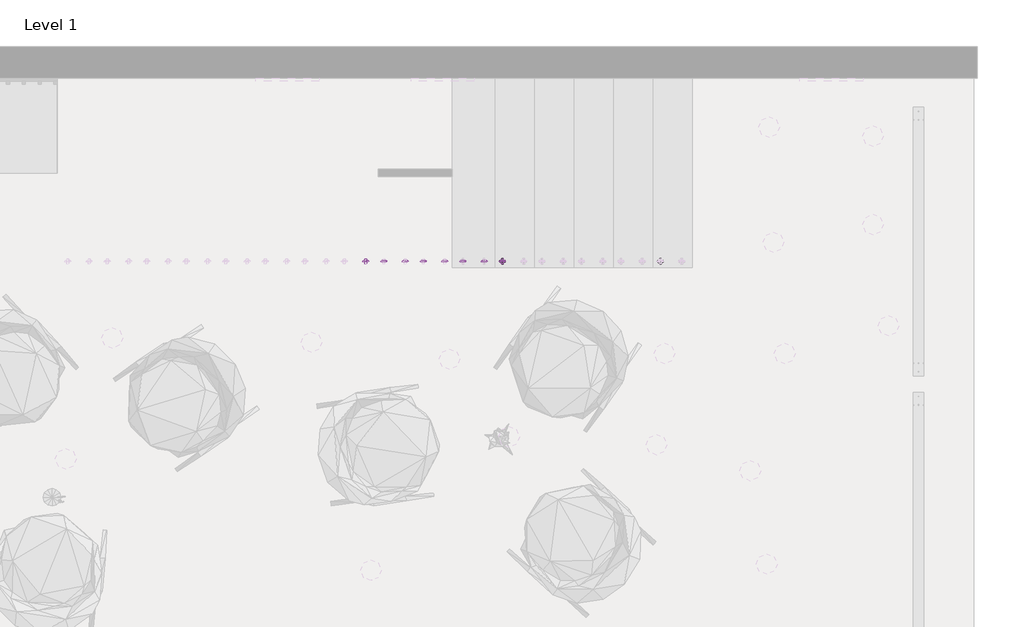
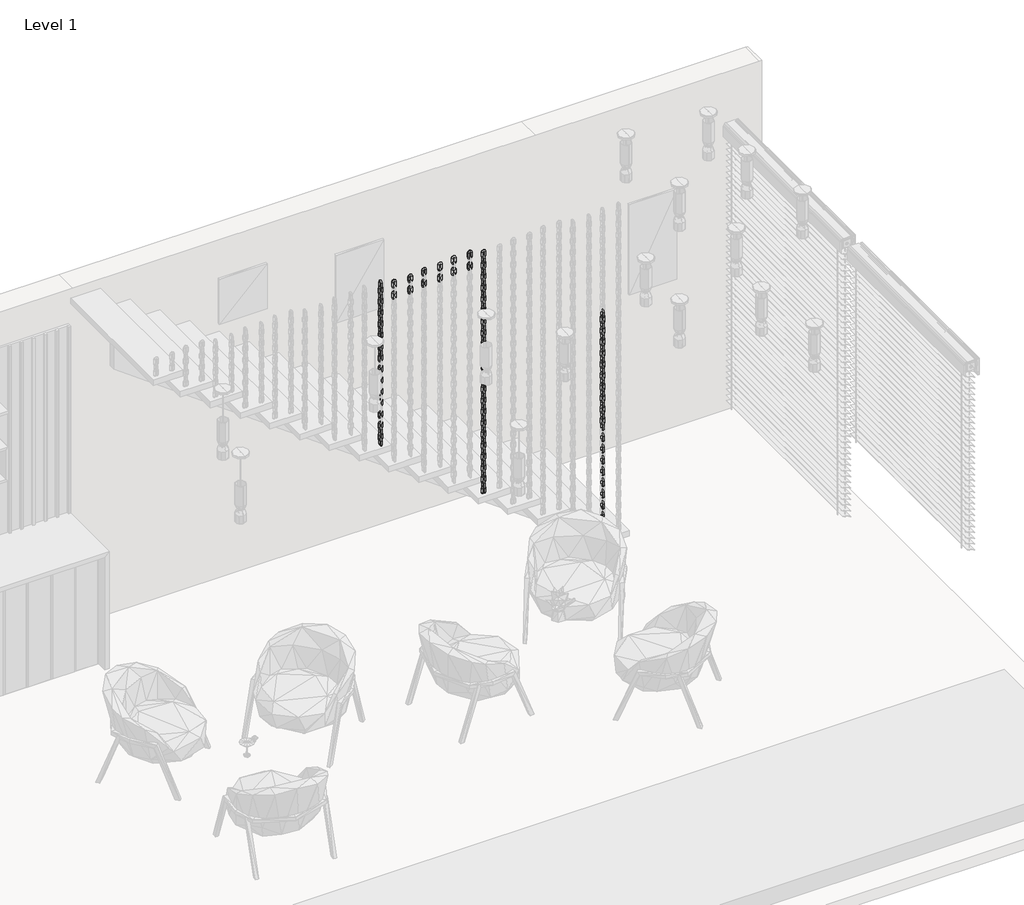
# One storey, part 8 of 12: 108 proxies.
"""IFC4 building model written with IfcOpenShell, lengths in millimetres."""

from ifc_helpers import new_model, si_unit, origin, place, context, project, spatial, transform, mapped, element, save
from components import family1_family1_50133a43, family1_family1_d3af85bb

model = new_model("IFC4")

# Units and contexts
model_context = context("Model", 3, world=origin())
ifc_project = project(units=[si_unit("LENGTHUNIT", "METRE", prefix="MILLI")], contexts=[model_context])

# Site, building, storey
site = spatial("IfcSite", under=ifc_project)
building = spatial("IfcBuilding", under=site)
storey = spatial("IfcBuildingStorey", under=building, Name="Level 1", Elevation=0.0)

# Proxies
placement = place(None, origin())
family1_family1_shape = family1_family1_50133a43(model_context)
element("IfcBuildingElementProxy", 1, Name="Family1 : Family1", ObjectType="Family1 : Family1", at=placement, inside=storey, context=model_context, shape_type="MappedRepresentation", body=[
    mapped(family1_family1_shape, transform((14865.1232124, 1139.760891, -134.8140205), x_axis=(-0.03315618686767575, 0.0, 0.9994501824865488), y_axis=(-0.9994501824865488, 0.0, -0.03315618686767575), z_axis=(0.0, -1.0, 0.0))),
])
element("IfcBuildingElementProxy", 2, Name="Family1 : Family1", ObjectType="Family1 : Family1", at=placement, inside=storey, context=model_context, shape_type="MappedRepresentation", body=[
    mapped(family1_family1_shape, transform((14865.1232124, 1139.760891, -34.8140205), x_axis=(-0.03315618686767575, 0.0, 0.9994501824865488), y_axis=(-0.9994501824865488, 0.0, -0.03315618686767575), z_axis=(0.0, -1.0, 0.0))),
])
element("IfcBuildingElementProxy", 3, Name="Family1 : Family1", ObjectType="Family1 : Family1", at=placement, inside=storey, context=model_context, shape_type="MappedRepresentation", body=[
    mapped(family1_family1_shape, transform((14865.1232124, 1139.760891, 65.1859795), x_axis=(-0.03315618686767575, 0.0, 0.9994501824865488), y_axis=(-0.9994501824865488, 0.0, -0.03315618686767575), z_axis=(0.0, -1.0, 0.0))),
])
element("IfcBuildingElementProxy", 4, Name="Family1 : Family1", ObjectType="Family1 : Family1", at=placement, inside=storey, context=model_context, shape_type="MappedRepresentation", body=[
    mapped(family1_family1_shape, transform((14865.1232124, 1139.760891, 165.1859795), x_axis=(-0.03315618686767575, 0.0, 0.9994501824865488), y_axis=(-0.9994501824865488, 0.0, -0.03315618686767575), z_axis=(0.0, -1.0, 0.0))),
])
element("IfcBuildingElementProxy", 5, Name="Family1 : Family1", ObjectType="Family1 : Family1", at=placement, inside=storey, context=model_context, shape_type="MappedRepresentation", body=[
    mapped(family1_family1_shape, transform((14865.1232124, 1139.760891, 265.1859795), x_axis=(-0.03315618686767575, 0.0, 0.9994501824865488), y_axis=(-0.9994501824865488, 0.0, -0.03315618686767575), z_axis=(0.0, -1.0, 0.0))),
])
element("IfcBuildingElementProxy", 6, Name="Family1 : Family1", ObjectType="Family1 : Family1", at=placement, inside=storey, context=model_context, shape_type="MappedRepresentation", body=[
    mapped(family1_family1_shape, transform((14865.1232124, 1139.760891, 365.1859795), x_axis=(-0.03315618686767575, 0.0, 0.9994501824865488), y_axis=(-0.9994501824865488, 0.0, -0.03315618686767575), z_axis=(0.0, -1.0, 0.0))),
])
element("IfcBuildingElementProxy", 7, Name="Family1 : Family1", ObjectType="Family1 : Family1", at=placement, inside=storey, context=model_context, shape_type="MappedRepresentation", body=[
    mapped(family1_family1_shape, transform((14865.1232124, 1139.760891, 465.1859795), x_axis=(-0.03315618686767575, 0.0, 0.9994501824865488), y_axis=(-0.9994501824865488, 0.0, -0.03315618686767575), z_axis=(0.0, -1.0, 0.0))),
])
element("IfcBuildingElementProxy", 8, Name="Family1 : Family1", ObjectType="Family1 : Family1", at=placement, inside=storey, context=model_context, shape_type="MappedRepresentation", body=[
    mapped(family1_family1_shape, transform((14865.1232124, 1139.760891, 565.1859795), x_axis=(-0.03315618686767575, 0.0, 0.9994501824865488), y_axis=(-0.9994501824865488, 0.0, -0.03315618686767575), z_axis=(0.0, -1.0, 0.0))),
])
element("IfcBuildingElementProxy", 9, Name="Family1 : Family1", ObjectType="Family1 : Family1", at=placement, inside=storey, context=model_context, shape_type="MappedRepresentation", body=[
    mapped(family1_family1_shape, transform((14865.1232124, 1139.760891, 665.1859795), x_axis=(-0.03315618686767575, 0.0, 0.9994501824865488), y_axis=(-0.9994501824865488, 0.0, -0.03315618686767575), z_axis=(0.0, -1.0, 0.0))),
])
element("IfcBuildingElementProxy", 10, Name="Family1 : Family1", ObjectType="Family1 : Family1", at=placement, inside=storey, context=model_context, shape_type="MappedRepresentation", body=[
    mapped(family1_family1_shape, transform((14865.1232124, 1139.760891, 765.1859795), x_axis=(-0.03315618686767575, 0.0, 0.9994501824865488), y_axis=(-0.9994501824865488, 0.0, -0.03315618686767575), z_axis=(0.0, -1.0, 0.0))),
])
element("IfcBuildingElementProxy", 11, Name="Family1 : Family1", ObjectType="Family1 : Family1", at=placement, inside=storey, context=model_context, shape_type="MappedRepresentation", body=[
    mapped(family1_family1_shape, transform((14865.1232124, 1139.760891, -234.8140205), x_axis=(-0.03315618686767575, 0.0, 0.9994501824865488), y_axis=(-0.9994501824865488, 0.0, -0.03315618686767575), z_axis=(0.0, -1.0, 0.0))),
])
element("IfcBuildingElementProxy", 12, Name="Family1 : Family1", ObjectType="Family1 : Family1", at=placement, inside=storey, context=model_context, shape_type="MappedRepresentation", body=[
    mapped(family1_family1_shape, transform((14865.1232124, 1139.760891, -334.8140205), x_axis=(-0.03315618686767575, 0.0, 0.9994501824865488), y_axis=(-0.9994501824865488, 0.0, -0.03315618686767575), z_axis=(0.0, -1.0, 0.0))),
])
element("IfcBuildingElementProxy", 13, Name="Family1 : Family1", ObjectType="Family1 : Family1", at=placement, inside=storey, context=model_context, shape_type="MappedRepresentation", body=[
    mapped(family1_family1_shape, transform((14865.1232124, 1139.760891, -434.8140205), x_axis=(-0.03315618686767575, 0.0, 0.9994501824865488), y_axis=(-0.9994501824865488, 0.0, -0.03315618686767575), z_axis=(0.0, -1.0, 0.0))),
])
element("IfcBuildingElementProxy", 14, Name="Family1 : Family1", ObjectType="Family1 : Family1", at=placement, inside=storey, context=model_context, shape_type="MappedRepresentation", body=[
    mapped(family1_family1_shape, transform((14865.1232124, 1139.760891, -534.8140205), x_axis=(-0.03315618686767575, 0.0, 0.9994501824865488), y_axis=(-0.9994501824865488, 0.0, -0.03315618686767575), z_axis=(0.0, -1.0, 0.0))),
])
element("IfcBuildingElementProxy", 15, Name="Family1 : Family1", ObjectType="Family1 : Family1", at=placement, inside=storey, context=model_context, shape_type="MappedRepresentation", body=[
    mapped(family1_family1_shape, transform((14865.1232124, 1139.760891, -634.8140205), x_axis=(-0.03315618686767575, 0.0, 0.9994501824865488), y_axis=(-0.9994501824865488, 0.0, -0.03315618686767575), z_axis=(0.0, -1.0, 0.0))),
])
element("IfcBuildingElementProxy", 16, Name="Family1 : Family1", ObjectType="Family1 : Family1", at=placement, inside=storey, context=model_context, shape_type="MappedRepresentation", body=[
    mapped(family1_family1_shape, transform((14865.1232124, 1139.760891, -734.8140205), x_axis=(-0.03315618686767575, 0.0, 0.9994501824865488), y_axis=(-0.9994501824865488, 0.0, -0.03315618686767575), z_axis=(0.0, -1.0, 0.0))),
])
element("IfcBuildingElementProxy", 17, Name="Family1 : Family1", ObjectType="Family1 : Family1", at=placement, inside=storey, context=model_context, shape_type="MappedRepresentation", body=[
    mapped(family1_family1_shape, transform((14865.1232124, 1139.760891, -834.8140205), x_axis=(-0.03315618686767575, 0.0, 0.9994501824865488), y_axis=(-0.9994501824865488, 0.0, -0.03315618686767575), z_axis=(0.0, -1.0, 0.0))),
])
element("IfcBuildingElementProxy", 18, Name="Family1 : Family1", ObjectType="Family1 : Family1", at=placement, inside=storey, context=model_context, shape_type="MappedRepresentation", body=[
    mapped(family1_family1_shape, transform((14865.1232124, 1139.760891, -934.8140205), x_axis=(-0.03315618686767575, 0.0, 0.9994501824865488), y_axis=(-0.9994501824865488, 0.0, -0.03315618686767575), z_axis=(0.0, -1.0, 0.0))),
])
element("IfcBuildingElementProxy", 19, Name="Family1 : Family1", ObjectType="Family1 : Family1", at=placement, inside=storey, context=model_context, shape_type="MappedRepresentation", body=[
    mapped(family1_family1_shape, transform((14865.1232124, 1139.760891, -1034.8140205), x_axis=(-0.03315618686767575, 0.0, 0.9994501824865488), y_axis=(-0.9994501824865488, 0.0, -0.03315618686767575), z_axis=(0.0, -1.0, 0.0))),
])
element("IfcBuildingElementProxy", 20, Name="Family1 : Family1", ObjectType="Family1 : Family1", at=placement, inside=storey, context=model_context, shape_type="MappedRepresentation", body=[
    mapped(family1_family1_shape, transform((14865.1232124, 1139.760891, 865.1859795), x_axis=(-0.03315618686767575, 0.0, 0.9994501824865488), y_axis=(-0.9994501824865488, 0.0, -0.03315618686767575), z_axis=(0.0, -1.0, 0.0))),
])
element("IfcBuildingElementProxy", 21, Name="Family1 : Family1", ObjectType="Family1 : Family1", at=placement, inside=storey, context=model_context, shape_type="MappedRepresentation", body=[
    mapped(family1_family1_shape, transform((13000.1232124, 1139.760891, 1174.0095089), x_axis=(-0.03315618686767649, 0.0, 0.9994501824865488), y_axis=(-0.9994501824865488, 0.0, -0.03315618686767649), z_axis=(0.0, -1.0, 0.0))),
])
element("IfcBuildingElementProxy", 22, Name="Family1 : Family1", ObjectType="Family1 : Family1", at=placement, inside=storey, context=model_context, shape_type="MappedRepresentation", body=[
    mapped(family1_family1_shape, transform((13000.1232124, 1139.760891, 1274.0095089), x_axis=(-0.03315618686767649, 0.0, 0.9994501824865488), y_axis=(-0.9994501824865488, 0.0, -0.03315618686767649), z_axis=(0.0, -1.0, 0.0))),
])
element("IfcBuildingElementProxy", 23, Name="Family1 : Family1", ObjectType="Family1 : Family1", at=placement, inside=storey, context=model_context, shape_type="MappedRepresentation", body=[
    mapped(family1_family1_shape, transform((13000.1232124, 1139.760891, 1374.0095089), x_axis=(-0.03315618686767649, 0.0, 0.9994501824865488), y_axis=(-0.9994501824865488, 0.0, -0.03315618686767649), z_axis=(0.0, -1.0, 0.0))),
])
element("IfcBuildingElementProxy", 24, Name="Family1 : Family1", ObjectType="Family1 : Family1", at=placement, inside=storey, context=model_context, shape_type="MappedRepresentation", body=[
    mapped(family1_family1_shape, transform((13000.1232124, 1139.760891, 1474.0095089), x_axis=(-0.03315618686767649, 0.0, 0.9994501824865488), y_axis=(-0.9994501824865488, 0.0, -0.03315618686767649), z_axis=(0.0, -1.0, 0.0))),
])
element("IfcBuildingElementProxy", 25, Name="Family1 : Family1", ObjectType="Family1 : Family1", at=placement, inside=storey, context=model_context, shape_type="MappedRepresentation", body=[
    mapped(family1_family1_shape, transform((13000.1232124, 1139.760891, 474.0095089), x_axis=(-0.03315618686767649, 0.0, 0.9994501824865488), y_axis=(-0.9994501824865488, 0.0, -0.03315618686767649), z_axis=(0.0, -1.0, 0.0))),
])
element("IfcBuildingElementProxy", 26, Name="Family1 : Family1", ObjectType="Family1 : Family1", at=placement, inside=storey, context=model_context, shape_type="MappedRepresentation", body=[
    mapped(family1_family1_shape, transform((13000.1232124, 1139.760891, 374.0095089), x_axis=(-0.03315618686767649, 0.0, 0.9994501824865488), y_axis=(-0.9994501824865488, 0.0, -0.03315618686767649), z_axis=(0.0, -1.0, 0.0))),
])
element("IfcBuildingElementProxy", 27, Name="Family1 : Family1", ObjectType="Family1 : Family1", at=placement, inside=storey, context=model_context, shape_type="MappedRepresentation", body=[
    mapped(family1_family1_shape, transform((13000.1232124, 1139.760891, 1574.0095089), x_axis=(-0.03315618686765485, 0.0, 0.9994501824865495), y_axis=(-0.9994501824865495, 0.0, -0.03315618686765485), z_axis=(0.0, -1.0, 0.0))),
])
element("IfcBuildingElementProxy", 28, Name="Family1 : Family1", ObjectType="Family1 : Family1", at=placement, inside=storey, context=model_context, shape_type="MappedRepresentation", body=[
    mapped(family1_family1_shape, transform((13000.1232124, 1139.760891, 1674.0095089), x_axis=(-0.03315618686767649, 0.0, 0.9994501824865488), y_axis=(-0.9994501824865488, 0.0, -0.03315618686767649), z_axis=(0.0, -1.0, 0.0))),
])
element("IfcBuildingElementProxy", 29, Name="Family1 : Family1", ObjectType="Family1 : Family1", at=placement, inside=storey, context=model_context, shape_type="MappedRepresentation", body=[
    mapped(family1_family1_shape, transform((13000.1232124, 1139.760891, 1774.0095089), x_axis=(-0.03315618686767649, 0.0, 0.9994501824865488), y_axis=(-0.9994501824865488, 0.0, -0.03315618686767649), z_axis=(0.0, -1.0, 0.0))),
])
element("IfcBuildingElementProxy", 30, Name="Family1 : Family1", ObjectType="Family1 : Family1", at=placement, inside=storey, context=model_context, shape_type="MappedRepresentation", body=[
    mapped(family1_family1_shape, transform((13865.1232124, 1139.760891, 194.5977442), x_axis=(-0.033156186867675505, 0.0, 0.9994501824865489), y_axis=(-0.9994501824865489, 0.0, -0.033156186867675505), z_axis=(0.0, -1.0, 0.0))),
])
element("IfcBuildingElementProxy", 31, Name="Family1 : Family1", ObjectType="Family1 : Family1", at=placement, inside=storey, context=model_context, shape_type="MappedRepresentation", body=[
    mapped(family1_family1_shape, transform((13865.1232124, 1139.760891, 294.5977442), x_axis=(-0.03315618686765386, 0.0, 0.9994501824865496), y_axis=(-0.9994501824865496, 0.0, -0.03315618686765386), z_axis=(0.0, -1.0, 0.0))),
])
element("IfcBuildingElementProxy", 32, Name="Family1 : Family1", ObjectType="Family1 : Family1", at=placement, inside=storey, context=model_context, shape_type="MappedRepresentation", body=[
    mapped(family1_family1_shape, transform((13865.1232124, 1139.760891, 394.5977442), x_axis=(-0.033156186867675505, 0.0, 0.9994501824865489), y_axis=(-0.9994501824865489, 0.0, -0.033156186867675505), z_axis=(0.0, -1.0, 0.0))),
])
element("IfcBuildingElementProxy", 33, Name="Family1 : Family1", ObjectType="Family1 : Family1", at=placement, inside=storey, context=model_context, shape_type="MappedRepresentation", body=[
    mapped(family1_family1_shape, transform((13865.1232124, 1139.760891, 494.5977442), x_axis=(-0.033156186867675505, 0.0, 0.9994501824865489), y_axis=(-0.9994501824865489, 0.0, -0.033156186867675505), z_axis=(0.0, -1.0, 0.0))),
])
element("IfcBuildingElementProxy", 34, Name="Family1 : Family1", ObjectType="Family1 : Family1", at=placement, inside=storey, context=model_context, shape_type="MappedRepresentation", body=[
    mapped(family1_family1_shape, transform((13865.1232124, 1139.760891, 594.5977442), x_axis=(-0.033156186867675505, 0.0, 0.9994501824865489), y_axis=(-0.9994501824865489, 0.0, -0.033156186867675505), z_axis=(0.0, -1.0, 0.0))),
])
element("IfcBuildingElementProxy", 35, Name="Family1 : Family1", ObjectType="Family1 : Family1", at=placement, inside=storey, context=model_context, shape_type="MappedRepresentation", body=[
    mapped(family1_family1_shape, transform((13865.1232124, 1139.760891, 694.5977442), x_axis=(-0.03315618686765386, 0.0, 0.9994501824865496), y_axis=(-0.9994501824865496, 0.0, -0.03315618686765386), z_axis=(0.0, -1.0, 0.0))),
])
element("IfcBuildingElementProxy", 36, Name="Family1 : Family1", ObjectType="Family1 : Family1", at=placement, inside=storey, context=model_context, shape_type="MappedRepresentation", body=[
    mapped(family1_family1_shape, transform((13865.1232124, 1139.760891, 794.5977442), x_axis=(-0.033156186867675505, 0.0, 0.9994501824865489), y_axis=(-0.9994501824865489, 0.0, -0.033156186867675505), z_axis=(0.0, -1.0, 0.0))),
])
element("IfcBuildingElementProxy", 37, Name="Family1 : Family1", ObjectType="Family1 : Family1", at=placement, inside=storey, context=model_context, shape_type="MappedRepresentation", body=[
    mapped(family1_family1_shape, transform((13865.1232124, 1139.760891, 894.5977442), x_axis=(-0.033156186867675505, 0.0, 0.9994501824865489), y_axis=(-0.9994501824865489, 0.0, -0.033156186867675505), z_axis=(0.0, -1.0, 0.0))),
])
element("IfcBuildingElementProxy", 38, Name="Family1 : Family1", ObjectType="Family1 : Family1", at=placement, inside=storey, context=model_context, shape_type="MappedRepresentation", body=[
    mapped(family1_family1_shape, transform((13865.1232124, 1139.760891, 994.5977442), x_axis=(-0.033156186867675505, 0.0, 0.9994501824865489), y_axis=(-0.9994501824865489, 0.0, -0.033156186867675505), z_axis=(0.0, -1.0, 0.0))),
])
element("IfcBuildingElementProxy", 39, Name="Family1 : Family1", ObjectType="Family1 : Family1", at=placement, inside=storey, context=model_context, shape_type="MappedRepresentation", body=[
    mapped(family1_family1_shape, transform((13865.1232124, 1139.760891, 1094.5977442), x_axis=(-0.033156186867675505, 0.0, 0.9994501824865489), y_axis=(-0.9994501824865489, 0.0, -0.033156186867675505), z_axis=(0.0, -1.0, 0.0))),
])
element("IfcBuildingElementProxy", 40, Name="Family1 : Family1", ObjectType="Family1 : Family1", at=placement, inside=storey, context=model_context, shape_type="MappedRepresentation", body=[
    mapped(family1_family1_shape, transform((13865.1232124, 1139.760891, 94.5977442), x_axis=(-0.033156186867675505, 0.0, 0.9994501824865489), y_axis=(-0.9994501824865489, 0.0, -0.033156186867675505), z_axis=(0.0, -1.0, 0.0))),
])
element("IfcBuildingElementProxy", 41, Name="Family1 : Family1", ObjectType="Family1 : Family1", at=placement, inside=storey, context=model_context, shape_type="MappedRepresentation", body=[
    mapped(family1_family1_shape, transform((13865.1232124, 1139.760891, -5.4022558), x_axis=(-0.033156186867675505, 0.0, 0.9994501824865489), y_axis=(-0.9994501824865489, 0.0, -0.033156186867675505), z_axis=(0.0, -1.0, 0.0))),
])
element("IfcBuildingElementProxy", 42, Name="Family1 : Family1", ObjectType="Family1 : Family1", at=placement, inside=storey, context=model_context, shape_type="MappedRepresentation", body=[
    mapped(family1_family1_shape, transform((13865.1232124, 1139.760891, -105.4022558), x_axis=(-0.033156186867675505, 0.0, 0.9994501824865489), y_axis=(-0.9994501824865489, 0.0, -0.033156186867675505), z_axis=(0.0, -1.0, 0.0))),
])
element("IfcBuildingElementProxy", 43, Name="Family1 : Family1", ObjectType="Family1 : Family1", at=placement, inside=storey, context=model_context, shape_type="MappedRepresentation", body=[
    mapped(family1_family1_shape, transform((13865.1232124, 1139.760891, -205.4022558), x_axis=(-0.033156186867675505, 0.0, 0.9994501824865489), y_axis=(-0.9994501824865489, 0.0, -0.033156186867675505), z_axis=(0.0, -1.0, 0.0))),
])
element("IfcBuildingElementProxy", 44, Name="Family1 : Family1", ObjectType="Family1 : Family1", at=placement, inside=storey, context=model_context, shape_type="MappedRepresentation", body=[
    mapped(family1_family1_shape, transform((13865.1232124, 1139.760891, -305.4022558), x_axis=(-0.033156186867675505, 0.0, 0.9994501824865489), y_axis=(-0.9994501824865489, 0.0, -0.033156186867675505), z_axis=(0.0, -1.0, 0.0))),
])
element("IfcBuildingElementProxy", 45, Name="Family1 : Family1", ObjectType="Family1 : Family1", at=placement, inside=storey, context=model_context, shape_type="MappedRepresentation", body=[
    mapped(family1_family1_shape, transform((13865.1232124, 1139.760891, 1194.5977442), x_axis=(-0.033156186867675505, 0.0, 0.9994501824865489), y_axis=(-0.9994501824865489, 0.0, -0.033156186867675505), z_axis=(0.0, -1.0, 0.0))),
])
element("IfcBuildingElementProxy", 46, Name="Family1 : Family1", ObjectType="Family1 : Family1", at=placement, inside=storey, context=model_context, shape_type="MappedRepresentation", body=[
    mapped(family1_family1_shape, transform((13865.1232124, 1139.760891, 1294.5977442), x_axis=(-0.033156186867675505, 0.0, 0.9994501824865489), y_axis=(-0.9994501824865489, 0.0, -0.033156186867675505), z_axis=(0.0, -1.0, 0.0))),
])
element("IfcBuildingElementProxy", 47, Name="Family1 : Family1", ObjectType="Family1 : Family1", at=placement, inside=storey, context=model_context, shape_type="MappedRepresentation", body=[
    mapped(family1_family1_shape, transform((13865.1232124, 1139.760891, 1394.5977442), x_axis=(-0.033156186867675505, 0.0, 0.9994501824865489), y_axis=(-0.9994501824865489, 0.0, -0.033156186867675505), z_axis=(0.0, -1.0, 0.0))),
])
element("IfcBuildingElementProxy", 48, Name="Family1 : Family1", ObjectType="Family1 : Family1", at=placement, inside=storey, context=model_context, shape_type="MappedRepresentation", body=[
    mapped(family1_family1_shape, transform((13865.1232124, 1139.760891, 1494.5977442), x_axis=(-0.033156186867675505, 0.0, 0.9994501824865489), y_axis=(-0.9994501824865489, 0.0, -0.033156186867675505), z_axis=(0.0, -1.0, 0.0))),
])
element("IfcBuildingElementProxy", 49, Name="Family1 : Family1", ObjectType="Family1 : Family1", at=placement, inside=storey, context=model_context, shape_type="MappedRepresentation", body=[
    mapped(family1_family1_shape, transform((13865.1232124, 1139.760891, 1594.5977442), x_axis=(-0.03315618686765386, 0.0, 0.9994501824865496), y_axis=(-0.9994501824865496, 0.0, -0.03315618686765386), z_axis=(0.0, -1.0, 0.0))),
])
element("IfcBuildingElementProxy", 50, Name="Family1 : Family1", ObjectType="Family1 : Family1", at=placement, inside=storey, context=model_context, shape_type="MappedRepresentation", body=[
    mapped(family1_family1_shape, transform((13865.1232124, 1139.760891, 1694.5977442), x_axis=(-0.033156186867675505, 0.0, 0.9994501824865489), y_axis=(-0.9994501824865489, 0.0, -0.033156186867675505), z_axis=(0.0, -1.0, 0.0))),
])
family1_family1_2_shape = family1_family1_d3af85bb(model_context)
element("IfcBuildingElementProxy", 51, Name="Family1 : Family1", ObjectType="Family1 : Family1", at=placement, inside=storey, context=model_context, shape_type="MappedRepresentation", body=[
    mapped(family1_family1_2_shape, transform((14865.1232124, 1139.760891, -84.8140205), x_axis=(-0.03315618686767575, 0.0, 0.9994501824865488), y_axis=(-0.9994501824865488, 0.0, -0.03315618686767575), z_axis=(0.0, -1.0, 0.0))),
])
element("IfcBuildingElementProxy", 52, Name="Family1 : Family1", ObjectType="Family1 : Family1", at=placement, inside=storey, context=model_context, shape_type="MappedRepresentation", body=[
    mapped(family1_family1_2_shape, transform((14865.1232124, 1139.760891, 15.1859795), x_axis=(-0.03315618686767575, 0.0, 0.9994501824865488), y_axis=(-0.9994501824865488, 0.0, -0.03315618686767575), z_axis=(0.0, -1.0, 0.0))),
])
element("IfcBuildingElementProxy", 53, Name="Family1 : Family1", ObjectType="Family1 : Family1", at=placement, inside=storey, context=model_context, shape_type="MappedRepresentation", body=[
    mapped(family1_family1_2_shape, transform((14865.1232124, 1139.760891, 115.1859795), x_axis=(-0.033156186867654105, 0.0, 0.9994501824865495), y_axis=(-0.9994501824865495, 0.0, -0.033156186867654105), z_axis=(0.0, -1.0, 0.0))),
])
element("IfcBuildingElementProxy", 54, Name="Family1 : Family1", ObjectType="Family1 : Family1", at=placement, inside=storey, context=model_context, shape_type="MappedRepresentation", body=[
    mapped(family1_family1_2_shape, transform((14865.1232124, 1139.760891, 215.1859795), x_axis=(-0.03315618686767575, 0.0, 0.9994501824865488), y_axis=(-0.9994501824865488, 0.0, -0.03315618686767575), z_axis=(0.0, -1.0, 0.0))),
])
element("IfcBuildingElementProxy", 55, Name="Family1 : Family1", ObjectType="Family1 : Family1", at=placement, inside=storey, context=model_context, shape_type="MappedRepresentation", body=[
    mapped(family1_family1_2_shape, transform((14865.1232124, 1139.760891, 315.1859795), x_axis=(-0.03315618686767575, 0.0, 0.9994501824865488), y_axis=(-0.9994501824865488, 0.0, -0.03315618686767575), z_axis=(0.0, -1.0, 0.0))),
])
element("IfcBuildingElementProxy", 56, Name="Family1 : Family1", ObjectType="Family1 : Family1", at=placement, inside=storey, context=model_context, shape_type="MappedRepresentation", body=[
    mapped(family1_family1_2_shape, transform((14865.1232124, 1139.760891, 415.1859795), x_axis=(-0.03315618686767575, 0.0, 0.9994501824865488), y_axis=(-0.9994501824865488, 0.0, -0.03315618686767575), z_axis=(0.0, -1.0, 0.0))),
])
element("IfcBuildingElementProxy", 57, Name="Family1 : Family1", ObjectType="Family1 : Family1", at=placement, inside=storey, context=model_context, shape_type="MappedRepresentation", body=[
    mapped(family1_family1_2_shape, transform((14865.1232124, 1139.760891, 515.1859795), x_axis=(-0.03315618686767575, 0.0, 0.9994501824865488), y_axis=(-0.9994501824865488, 0.0, -0.03315618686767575), z_axis=(0.0, -1.0, 0.0))),
])
element("IfcBuildingElementProxy", 58, Name="Family1 : Family1", ObjectType="Family1 : Family1", at=placement, inside=storey, context=model_context, shape_type="MappedRepresentation", body=[
    mapped(family1_family1_2_shape, transform((14865.1232124, 1139.760891, 615.1859795), x_axis=(-0.033156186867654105, 0.0, 0.9994501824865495), y_axis=(-0.9994501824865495, 0.0, -0.033156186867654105), z_axis=(0.0, -1.0, 0.0))),
])
element("IfcBuildingElementProxy", 59, Name="Family1 : Family1", ObjectType="Family1 : Family1", at=placement, inside=storey, context=model_context, shape_type="MappedRepresentation", body=[
    mapped(family1_family1_2_shape, transform((14865.1232124, 1139.760891, 715.1859795), x_axis=(-0.03315618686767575, 0.0, 0.9994501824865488), y_axis=(-0.9994501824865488, 0.0, -0.03315618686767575), z_axis=(0.0, -1.0, 0.0))),
])
element("IfcBuildingElementProxy", 60, Name="Family1 : Family1", ObjectType="Family1 : Family1", at=placement, inside=storey, context=model_context, shape_type="MappedRepresentation", body=[
    mapped(family1_family1_2_shape, transform((14865.1232124, 1139.760891, 815.1859795), x_axis=(-0.03315618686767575, 0.0, 0.9994501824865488), y_axis=(-0.9994501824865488, 0.0, -0.03315618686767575), z_axis=(0.0, -1.0, 0.0))),
])
element("IfcBuildingElementProxy", 61, Name="Family1 : Family1", ObjectType="Family1 : Family1", at=placement, inside=storey, context=model_context, shape_type="MappedRepresentation", body=[
    mapped(family1_family1_2_shape, transform((13000.1232124, 1139.760891, 624.0095089), x_axis=(-0.03315618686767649, 0.0, 0.9994501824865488), y_axis=(-0.9994501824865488, 0.0, -0.03315618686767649), z_axis=(0.0, -1.0, 0.0))),
])
element("IfcBuildingElementProxy", 62, Name="Family1 : Family1", ObjectType="Family1 : Family1", at=placement, inside=storey, context=model_context, shape_type="MappedRepresentation", body=[
    mapped(family1_family1_2_shape, transform((13000.1232124, 1139.760891, 724.0095089), x_axis=(-0.03315618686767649, 0.0, 0.9994501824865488), y_axis=(-0.9994501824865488, 0.0, -0.03315618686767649), z_axis=(0.0, -1.0, 0.0))),
])
element("IfcBuildingElementProxy", 63, Name="Family1 : Family1", ObjectType="Family1 : Family1", at=placement, inside=storey, context=model_context, shape_type="MappedRepresentation", body=[
    mapped(family1_family1_2_shape, transform((13000.1232124, 1139.760891, 824.0095089), x_axis=(-0.03315618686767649, 0.0, 0.9994501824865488), y_axis=(-0.9994501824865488, 0.0, -0.03315618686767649), z_axis=(0.0, -1.0, 0.0))),
])
element("IfcBuildingElementProxy", 64, Name="Family1 : Family1", ObjectType="Family1 : Family1", at=placement, inside=storey, context=model_context, shape_type="MappedRepresentation", body=[
    mapped(family1_family1_2_shape, transform((13000.1232124, 1139.760891, 924.0095089), x_axis=(-0.03315618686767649, 0.0, 0.9994501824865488), y_axis=(-0.9994501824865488, 0.0, -0.03315618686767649), z_axis=(0.0, -1.0, 0.0))),
])
element("IfcBuildingElementProxy", 65, Name="Family1 : Family1", ObjectType="Family1 : Family1", at=placement, inside=storey, context=model_context, shape_type="MappedRepresentation", body=[
    mapped(family1_family1_2_shape, transform((13000.1232124, 1139.760891, 1024.0095089), x_axis=(-0.03315618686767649, 0.0, 0.9994501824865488), y_axis=(-0.9994501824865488, 0.0, -0.03315618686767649), z_axis=(0.0, -1.0, 0.0))),
])
element("IfcBuildingElementProxy", 66, Name="Family1 : Family1", ObjectType="Family1 : Family1", at=placement, inside=storey, context=model_context, shape_type="MappedRepresentation", body=[
    mapped(family1_family1_2_shape, transform((13000.1232124, 1139.760891, 1124.0095089), x_axis=(-0.03315618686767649, 0.0, 0.9994501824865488), y_axis=(-0.9994501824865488, 0.0, -0.03315618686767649), z_axis=(0.0, -1.0, 0.0))),
])
element("IfcBuildingElementProxy", 67, Name="Family1 : Family1", ObjectType="Family1 : Family1", at=placement, inside=storey, context=model_context, shape_type="MappedRepresentation", body=[
    mapped(family1_family1_2_shape, transform((13000.1232124, 1139.760891, 1224.0095089), x_axis=(-0.03315618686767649, 0.0, 0.9994501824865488), y_axis=(-0.9994501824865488, 0.0, -0.03315618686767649), z_axis=(0.0, -1.0, 0.0))),
])
element("IfcBuildingElementProxy", 68, Name="Family1 : Family1", ObjectType="Family1 : Family1", at=placement, inside=storey, context=model_context, shape_type="MappedRepresentation", body=[
    mapped(family1_family1_2_shape, transform((13000.1232124, 1139.760891, 1324.0095089), x_axis=(-0.03315618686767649, 0.0, 0.9994501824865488), y_axis=(-0.9994501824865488, 0.0, -0.03315618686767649), z_axis=(0.0, -1.0, 0.0))),
])
element("IfcBuildingElementProxy", 69, Name="Family1 : Family1", ObjectType="Family1 : Family1", at=placement, inside=storey, context=model_context, shape_type="MappedRepresentation", body=[
    mapped(family1_family1_2_shape, transform((13000.1232124, 1139.760891, 1424.0095089), x_axis=(-0.03315618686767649, 0.0, 0.9994501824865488), y_axis=(-0.9994501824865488, 0.0, -0.03315618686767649), z_axis=(0.0, -1.0, 0.0))),
])
element("IfcBuildingElementProxy", 70, Name="Family1 : Family1", ObjectType="Family1 : Family1", at=placement, inside=storey, context=model_context, shape_type="MappedRepresentation", body=[
    mapped(family1_family1_2_shape, transform((13000.1232124, 1139.760891, 1524.0095089), x_axis=(-0.03315618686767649, 0.0, 0.9994501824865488), y_axis=(-0.9994501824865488, 0.0, -0.03315618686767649), z_axis=(0.0, -1.0, 0.0))),
])
element("IfcBuildingElementProxy", 71, Name="Family1 : Family1", ObjectType="Family1 : Family1", at=placement, inside=storey, context=model_context, shape_type="MappedRepresentation", body=[
    mapped(family1_family1_2_shape, transform((13000.1232124, 1139.760891, 524.0095089), x_axis=(-0.03315618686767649, 0.0, 0.9994501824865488), y_axis=(-0.9994501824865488, 0.0, -0.03315618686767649), z_axis=(0.0, -1.0, 0.0))),
])
element("IfcBuildingElementProxy", 72, Name="Family1 : Family1", ObjectType="Family1 : Family1", at=placement, inside=storey, context=model_context, shape_type="MappedRepresentation", body=[
    mapped(family1_family1_2_shape, transform((13000.1232124, 1139.760891, 424.0095089), x_axis=(-0.03315618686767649, 0.0, 0.9994501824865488), y_axis=(-0.9994501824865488, 0.0, -0.03315618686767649), z_axis=(0.0, -1.0, 0.0))),
])
element("IfcBuildingElementProxy", 73, Name="Family1 : Family1", ObjectType="Family1 : Family1", at=placement, inside=storey, context=model_context, shape_type="MappedRepresentation", body=[
    mapped(family1_family1_2_shape, transform((13750.1232124, 1139.760891, 1676.9506853), x_axis=(-0.03315618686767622, 0.0, 0.9994501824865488), y_axis=(-0.9994501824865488, 0.0, -0.03315618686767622), z_axis=(0.0, -1.0, 0.0))),
])
element("IfcBuildingElementProxy", 74, Name="Family1 : Family1", ObjectType="Family1 : Family1", at=placement, inside=storey, context=model_context, shape_type="MappedRepresentation", body=[
    mapped(family1_family1_2_shape, transform((13750.1232124, 1139.760891, 1776.9506853), x_axis=(-0.03315618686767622, 0.0, 0.9994501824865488), y_axis=(-0.9994501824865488, 0.0, -0.03315618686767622), z_axis=(0.0, -1.0, 0.0))),
])
element("IfcBuildingElementProxy", 75, Name="Family1 : Family1", ObjectType="Family1 : Family1", at=placement, inside=storey, context=model_context, shape_type="MappedRepresentation", body=[
    mapped(family1_family1_2_shape, transform((13615.1232124, 1139.760891, 1676.9506853), x_axis=(-0.03315618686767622, 0.0, 0.9994501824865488), y_axis=(-0.9994501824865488, 0.0, -0.03315618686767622), z_axis=(0.0, -1.0, 0.0))),
])
element("IfcBuildingElementProxy", 76, Name="Family1 : Family1", ObjectType="Family1 : Family1", at=placement, inside=storey, context=model_context, shape_type="MappedRepresentation", body=[
    mapped(family1_family1_2_shape, transform((13615.1232124, 1139.760891, 1776.9506853), x_axis=(-0.03315618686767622, 0.0, 0.9994501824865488), y_axis=(-0.9994501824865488, 0.0, -0.03315618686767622), z_axis=(0.0, -1.0, 0.0))),
])
element("IfcBuildingElementProxy", 77, Name="Family1 : Family1", ObjectType="Family1 : Family1", at=placement, inside=storey, context=model_context, shape_type="MappedRepresentation", body=[
    mapped(family1_family1_2_shape, transform((13500.1232124, 1139.760891, 1659.3036265), x_axis=(-0.0331561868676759, 0.0, 0.9994501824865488), y_axis=(-0.9994501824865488, 0.0, -0.0331561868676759), z_axis=(0.0, -1.0, 0.0))),
])
element("IfcBuildingElementProxy", 78, Name="Family1 : Family1", ObjectType="Family1 : Family1", at=placement, inside=storey, context=model_context, shape_type="MappedRepresentation", body=[
    mapped(family1_family1_2_shape, transform((13500.1232124, 1139.760891, 1759.3036265), x_axis=(-0.0331561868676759, 0.0, 0.9994501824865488), y_axis=(-0.9994501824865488, 0.0, -0.0331561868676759), z_axis=(0.0, -1.0, 0.0))),
])
element("IfcBuildingElementProxy", 79, Name="Family1 : Family1", ObjectType="Family1 : Family1", at=placement, inside=storey, context=model_context, shape_type="MappedRepresentation", body=[
    mapped(family1_family1_2_shape, transform((13365.1232124, 1139.760891, 1659.3036265), x_axis=(-0.0331561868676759, 0.0, 0.9994501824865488), y_axis=(-0.9994501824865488, 0.0, -0.0331561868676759), z_axis=(0.0, -1.0, 0.0))),
])
element("IfcBuildingElementProxy", 80, Name="Family1 : Family1", ObjectType="Family1 : Family1", at=placement, inside=storey, context=model_context, shape_type="MappedRepresentation", body=[
    mapped(family1_family1_2_shape, transform((13365.1232124, 1139.760891, 1759.3036265), x_axis=(-0.0331561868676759, 0.0, 0.9994501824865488), y_axis=(-0.9994501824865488, 0.0, -0.0331561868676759), z_axis=(0.0, -1.0, 0.0))),
])
element("IfcBuildingElementProxy", 81, Name="Family1 : Family1", ObjectType="Family1 : Family1", at=placement, inside=storey, context=model_context, shape_type="MappedRepresentation", body=[
    mapped(family1_family1_2_shape, transform((13250.1232124, 1139.760891, 1641.6565677), x_axis=(-0.033156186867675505, 0.0, 0.9994501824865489), y_axis=(-0.9994501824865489, 0.0, -0.033156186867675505), z_axis=(0.0, -1.0, 0.0))),
])
element("IfcBuildingElementProxy", 82, Name="Family1 : Family1", ObjectType="Family1 : Family1", at=placement, inside=storey, context=model_context, shape_type="MappedRepresentation", body=[
    mapped(family1_family1_2_shape, transform((13250.1232124, 1139.760891, 1741.6565677), x_axis=(-0.033156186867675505, 0.0, 0.9994501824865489), y_axis=(-0.9994501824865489, 0.0, -0.033156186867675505), z_axis=(0.0, -1.0, 0.0))),
])
element("IfcBuildingElementProxy", 83, Name="Family1 : Family1", ObjectType="Family1 : Family1", at=placement, inside=storey, context=model_context, shape_type="MappedRepresentation", body=[
    mapped(family1_family1_2_shape, transform((13115.1232124, 1139.760891, 1641.6565677), x_axis=(-0.033156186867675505, 0.0, 0.9994501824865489), y_axis=(-0.9994501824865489, 0.0, -0.033156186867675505), z_axis=(0.0, -1.0, 0.0))),
])
element("IfcBuildingElementProxy", 84, Name="Family1 : Family1", ObjectType="Family1 : Family1", at=placement, inside=storey, context=model_context, shape_type="MappedRepresentation", body=[
    mapped(family1_family1_2_shape, transform((13115.1232124, 1139.760891, 1741.6565677), x_axis=(-0.033156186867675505, 0.0, 0.9994501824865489), y_axis=(-0.9994501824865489, 0.0, -0.033156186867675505), z_axis=(0.0, -1.0, 0.0))),
])
element("IfcBuildingElementProxy", 85, Name="Family1 : Family1", ObjectType="Family1 : Family1", at=placement, inside=storey, context=model_context, shape_type="MappedRepresentation", body=[
    mapped(family1_family1_2_shape, transform((13000.1232124, 1139.760891, 1624.0095089), x_axis=(-0.03315618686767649, 0.0, 0.9994501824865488), y_axis=(-0.9994501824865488, 0.0, -0.03315618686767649), z_axis=(0.0, -1.0, 0.0))),
])
element("IfcBuildingElementProxy", 86, Name="Family1 : Family1", ObjectType="Family1 : Family1", at=placement, inside=storey, context=model_context, shape_type="MappedRepresentation", body=[
    mapped(family1_family1_2_shape, transform((13000.1232124, 1139.760891, 1724.0095089), x_axis=(-0.03315618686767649, 0.0, 0.9994501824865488), y_axis=(-0.9994501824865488, 0.0, -0.03315618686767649), z_axis=(0.0, -1.0, 0.0))),
])
element("IfcBuildingElementProxy", 87, Name="Family1 : Family1", ObjectType="Family1 : Family1", at=placement, inside=storey, context=model_context, shape_type="MappedRepresentation", body=[
    mapped(family1_family1_2_shape, transform((13865.1232124, 1139.760891, 244.5977442), x_axis=(-0.033156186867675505, 0.0, 0.9994501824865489), y_axis=(-0.9994501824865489, 0.0, -0.033156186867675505), z_axis=(0.0, -1.0, 0.0))),
])
element("IfcBuildingElementProxy", 88, Name="Family1 : Family1", ObjectType="Family1 : Family1", at=placement, inside=storey, context=model_context, shape_type="MappedRepresentation", body=[
    mapped(family1_family1_2_shape, transform((13865.1232124, 1139.760891, 344.5977442), x_axis=(-0.033156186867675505, 0.0, 0.9994501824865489), y_axis=(-0.9994501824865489, 0.0, -0.033156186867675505), z_axis=(0.0, -1.0, 0.0))),
])
element("IfcBuildingElementProxy", 89, Name="Family1 : Family1", ObjectType="Family1 : Family1", at=placement, inside=storey, context=model_context, shape_type="MappedRepresentation", body=[
    mapped(family1_family1_2_shape, transform((13865.1232124, 1139.760891, 444.5977442), x_axis=(-0.033156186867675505, 0.0, 0.9994501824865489), y_axis=(-0.9994501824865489, 0.0, -0.033156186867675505), z_axis=(0.0, -1.0, 0.0))),
])
element("IfcBuildingElementProxy", 90, Name="Family1 : Family1", ObjectType="Family1 : Family1", at=placement, inside=storey, context=model_context, shape_type="MappedRepresentation", body=[
    mapped(family1_family1_2_shape, transform((13865.1232124, 1139.760891, 544.5977442), x_axis=(-0.033156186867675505, 0.0, 0.9994501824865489), y_axis=(-0.9994501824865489, 0.0, -0.033156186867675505), z_axis=(0.0, -1.0, 0.0))),
])
element("IfcBuildingElementProxy", 91, Name="Family1 : Family1", ObjectType="Family1 : Family1", at=placement, inside=storey, context=model_context, shape_type="MappedRepresentation", body=[
    mapped(family1_family1_2_shape, transform((13865.1232124, 1139.760891, 644.5977442), x_axis=(-0.033156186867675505, 0.0, 0.9994501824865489), y_axis=(-0.9994501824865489, 0.0, -0.033156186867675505), z_axis=(0.0, -1.0, 0.0))),
])
element("IfcBuildingElementProxy", 92, Name="Family1 : Family1", ObjectType="Family1 : Family1", at=placement, inside=storey, context=model_context, shape_type="MappedRepresentation", body=[
    mapped(family1_family1_2_shape, transform((13865.1232124, 1139.760891, 744.5977442), x_axis=(-0.033156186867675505, 0.0, 0.9994501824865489), y_axis=(-0.9994501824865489, 0.0, -0.033156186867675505), z_axis=(0.0, -1.0, 0.0))),
])
element("IfcBuildingElementProxy", 93, Name="Family1 : Family1", ObjectType="Family1 : Family1", at=placement, inside=storey, context=model_context, shape_type="MappedRepresentation", body=[
    mapped(family1_family1_2_shape, transform((13865.1232124, 1139.760891, 844.5977442), x_axis=(-0.033156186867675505, 0.0, 0.9994501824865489), y_axis=(-0.9994501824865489, 0.0, -0.033156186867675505), z_axis=(0.0, -1.0, 0.0))),
])
element("IfcBuildingElementProxy", 94, Name="Family1 : Family1", ObjectType="Family1 : Family1", at=placement, inside=storey, context=model_context, shape_type="MappedRepresentation", body=[
    mapped(family1_family1_2_shape, transform((13865.1232124, 1139.760891, 944.5977442), x_axis=(-0.033156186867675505, 0.0, 0.9994501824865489), y_axis=(-0.9994501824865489, 0.0, -0.033156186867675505), z_axis=(0.0, -1.0, 0.0))),
])
element("IfcBuildingElementProxy", 95, Name="Family1 : Family1", ObjectType="Family1 : Family1", at=placement, inside=storey, context=model_context, shape_type="MappedRepresentation", body=[
    mapped(family1_family1_2_shape, transform((13865.1232124, 1139.760891, 1044.5977442), x_axis=(-0.033156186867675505, 0.0, 0.9994501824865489), y_axis=(-0.9994501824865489, 0.0, -0.033156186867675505), z_axis=(0.0, -1.0, 0.0))),
])
element("IfcBuildingElementProxy", 96, Name="Family1 : Family1", ObjectType="Family1 : Family1", at=placement, inside=storey, context=model_context, shape_type="MappedRepresentation", body=[
    mapped(family1_family1_2_shape, transform((13865.1232124, 1139.760891, 1144.5977442), x_axis=(-0.03315618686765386, 0.0, 0.9994501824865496), y_axis=(-0.9994501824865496, 0.0, -0.03315618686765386), z_axis=(0.0, -1.0, 0.0))),
])
element("IfcBuildingElementProxy", 97, Name="Family1 : Family1", ObjectType="Family1 : Family1", at=placement, inside=storey, context=model_context, shape_type="MappedRepresentation", body=[
    mapped(family1_family1_2_shape, transform((13865.1232124, 1139.760891, 144.5977442), x_axis=(-0.033156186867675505, 0.0, 0.9994501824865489), y_axis=(-0.9994501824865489, 0.0, -0.033156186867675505), z_axis=(0.0, -1.0, 0.0))),
])
element("IfcBuildingElementProxy", 98, Name="Family1 : Family1", ObjectType="Family1 : Family1", at=placement, inside=storey, context=model_context, shape_type="MappedRepresentation", body=[
    mapped(family1_family1_2_shape, transform((13865.1232124, 1139.760891, 44.5977442), x_axis=(-0.033156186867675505, 0.0, 0.9994501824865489), y_axis=(-0.9994501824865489, 0.0, -0.033156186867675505), z_axis=(0.0, -1.0, 0.0))),
])
element("IfcBuildingElementProxy", 99, Name="Family1 : Family1", ObjectType="Family1 : Family1", at=placement, inside=storey, context=model_context, shape_type="MappedRepresentation", body=[
    mapped(family1_family1_2_shape, transform((13865.1232124, 1139.760891, -55.4022558), x_axis=(-0.033156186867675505, 0.0, 0.9994501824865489), y_axis=(-0.9994501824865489, 0.0, -0.033156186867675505), z_axis=(0.0, -1.0, 0.0))),
])
element("IfcBuildingElementProxy", 100, Name="Family1 : Family1", ObjectType="Family1 : Family1", at=placement, inside=storey, context=model_context, shape_type="MappedRepresentation", body=[
    mapped(family1_family1_2_shape, transform((13865.1232124, 1139.760891, -155.4022558), x_axis=(-0.03315618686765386, 0.0, 0.9994501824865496), y_axis=(-0.9994501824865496, 0.0, -0.03315618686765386), z_axis=(0.0, -1.0, 0.0))),
])
element("IfcBuildingElementProxy", 101, Name="Family1 : Family1", ObjectType="Family1 : Family1", at=placement, inside=storey, context=model_context, shape_type="MappedRepresentation", body=[
    mapped(family1_family1_2_shape, transform((13865.1232124, 1139.760891, -255.4022558), x_axis=(-0.033156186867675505, 0.0, 0.9994501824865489), y_axis=(-0.9994501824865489, 0.0, -0.033156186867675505), z_axis=(0.0, -1.0, 0.0))),
])
element("IfcBuildingElementProxy", 102, Name="Family1 : Family1", ObjectType="Family1 : Family1", at=placement, inside=storey, context=model_context, shape_type="MappedRepresentation", body=[
    mapped(family1_family1_2_shape, transform((13865.1232124, 1139.760891, -355.4022558), x_axis=(-0.033156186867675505, 0.0, 0.9994501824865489), y_axis=(-0.9994501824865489, 0.0, -0.033156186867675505), z_axis=(0.0, -1.0, 0.0))),
])
element("IfcBuildingElementProxy", 103, Name="Family1 : Family1", ObjectType="Family1 : Family1", at=placement, inside=storey, context=model_context, shape_type="MappedRepresentation", body=[
    mapped(family1_family1_2_shape, transform((13865.1232124, 1139.760891, 1244.5977442), x_axis=(-0.033156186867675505, 0.0, 0.9994501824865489), y_axis=(-0.9994501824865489, 0.0, -0.033156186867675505), z_axis=(0.0, -1.0, 0.0))),
])
element("IfcBuildingElementProxy", 104, Name="Family1 : Family1", ObjectType="Family1 : Family1", at=placement, inside=storey, context=model_context, shape_type="MappedRepresentation", body=[
    mapped(family1_family1_2_shape, transform((13865.1232124, 1139.760891, 1344.5977442), x_axis=(-0.033156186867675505, 0.0, 0.9994501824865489), y_axis=(-0.9994501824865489, 0.0, -0.033156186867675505), z_axis=(0.0, -1.0, 0.0))),
])
element("IfcBuildingElementProxy", 105, Name="Family1 : Family1", ObjectType="Family1 : Family1", at=placement, inside=storey, context=model_context, shape_type="MappedRepresentation", body=[
    mapped(family1_family1_2_shape, transform((13865.1232124, 1139.760891, 1444.5977442), x_axis=(-0.033156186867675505, 0.0, 0.9994501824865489), y_axis=(-0.9994501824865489, 0.0, -0.033156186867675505), z_axis=(0.0, -1.0, 0.0))),
])
element("IfcBuildingElementProxy", 106, Name="Family1 : Family1", ObjectType="Family1 : Family1", at=placement, inside=storey, context=model_context, shape_type="MappedRepresentation", body=[
    mapped(family1_family1_2_shape, transform((13865.1232124, 1139.760891, 1544.5977442), x_axis=(-0.033156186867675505, 0.0, 0.9994501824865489), y_axis=(-0.9994501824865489, 0.0, -0.033156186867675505), z_axis=(0.0, -1.0, 0.0))),
])
element("IfcBuildingElementProxy", 107, Name="Family1 : Family1", ObjectType="Family1 : Family1", at=placement, inside=storey, context=model_context, shape_type="MappedRepresentation", body=[
    mapped(family1_family1_2_shape, transform((13865.1232124, 1139.760891, 1644.5977442), x_axis=(-0.033156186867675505, 0.0, 0.9994501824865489), y_axis=(-0.9994501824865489, 0.0, -0.033156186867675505), z_axis=(0.0, -1.0, 0.0))),
])
element("IfcBuildingElementProxy", 108, Name="Family1 : Family1", ObjectType="Family1 : Family1", at=placement, inside=storey, context=model_context, shape_type="MappedRepresentation", body=[
    mapped(family1_family1_2_shape, transform((13865.1232124, 1139.760891, 1744.5977442), x_axis=(-0.033156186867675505, 0.0, 0.9994501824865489), y_axis=(-0.9994501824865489, 0.0, -0.033156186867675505), z_axis=(0.0, -1.0, 0.0))),
])

save(model, "model.ifc")
